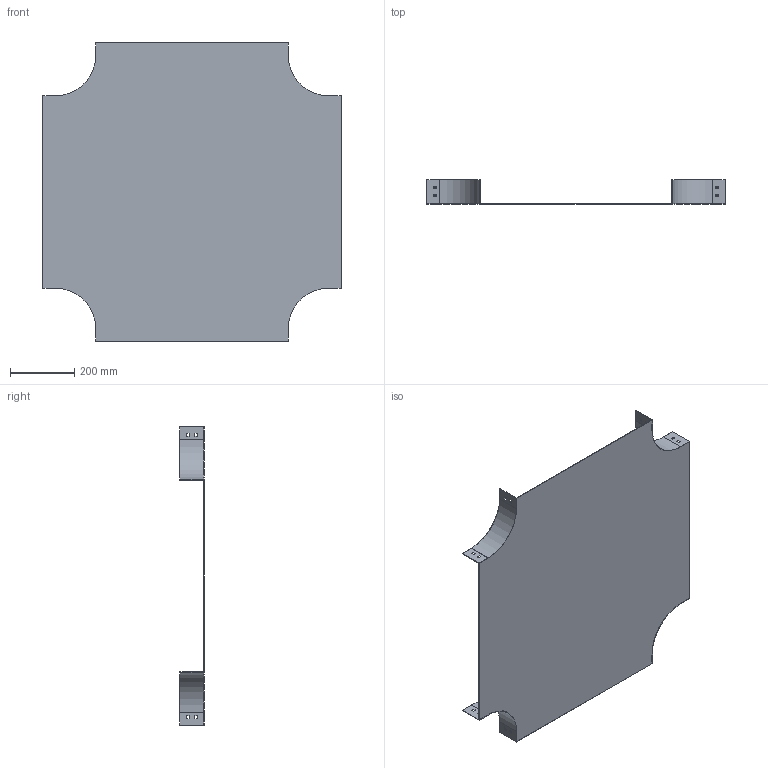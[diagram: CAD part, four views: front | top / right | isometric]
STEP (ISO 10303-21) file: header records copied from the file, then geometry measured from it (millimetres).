
FILE_DESCRIPTION (( 'STEP AP214' ), '1' );
FILE_NAME ('PC_607.step', '2025-07-16T09:22:59', ( '' ), ( '' ), 'SwSTEP 2.0', 'SolidWorks 2023', '' );
FILE_SCHEMA (( 'AUTOMOTIVE_DESIGN' ));
Length unit declared in the file: millimetre
Products named in the file (1): PC_607
Bounding box: 930 x 75 x 930 mm (x, y, z)
Volume: 1274828.6 mm3; surface area: 1706727.6 mm2
Topology: 1 solids, 1 shells, 98 faces, 288 edges, 192 vertices
Faces by surface type: plane 90, cylinder 8
Entity records: 3295 total; most frequent: CARTESIAN_POINT 579, ORIENTED_EDGE 576, DIRECTION 502, EDGE_CURVE 288, LINE 272, VECTOR 272, VERTEX_POINT 192, EDGE_LOOP 130
